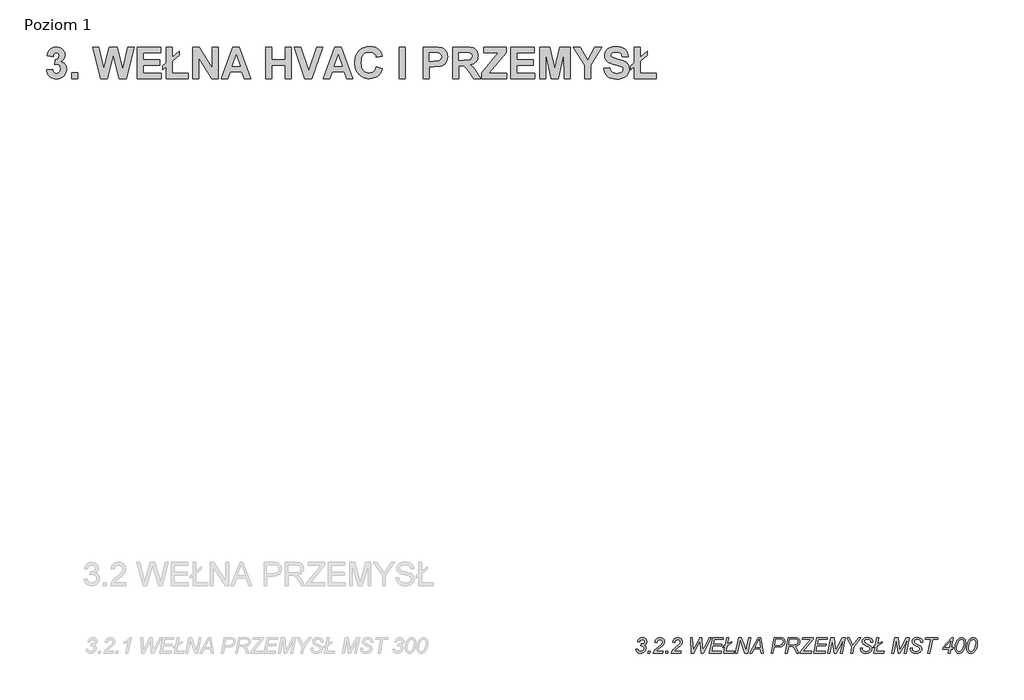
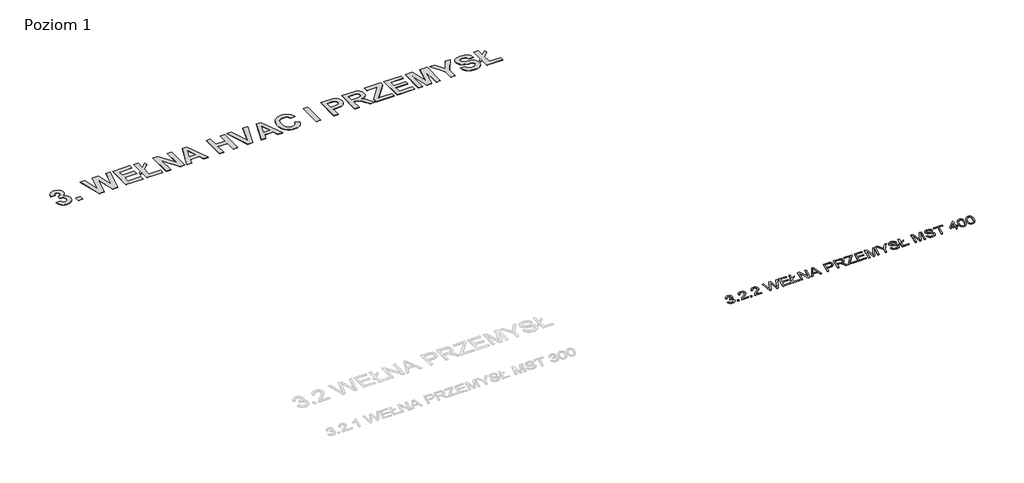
# One storey, part 3 of 8: 2 proxies.
"""IFC4 building model written with IfcOpenShell, lengths in millimetres."""

from ifc_helpers import new_model, si_unit, origin, origin_with_axes, place, context, project, spatial, polyline, outline, extrude, element, save

model = new_model("IFC4")

# Units and contexts
model_context = context("Model", 3, world=origin())
ifc_project = project(units=[si_unit("LENGTHUNIT", "METRE", prefix="MILLI")], contexts=[model_context])

# Site, building, storey
site = spatial("IfcSite", under=ifc_project)
building = spatial("IfcBuilding", under=site)
storey = spatial("IfcBuildingStorey", under=building, Name="Poziom 1", Elevation=0.0)

# Proxies
placement = place(None, origin())
element("IfcBuildingElementProxy", 1, Name="400 mm Arial", ObjectType="400 mm Arial", at=placement, inside=storey, context=model_context, shape_type="SweptSolid", body=[
    extrude(outline(polyline([(-1064.6188022, 3434.5109693), (-1015.6491052, 3434.5109693), (-1006.7542189, 3406.3557846), (-991.1642568, 3387.501973), (-969.2617946, 3376.8496293), (-941.4294083, 3373.298848), (-906.8541242, 3379.2765943), (-891.4674054, 3386.748777), (-877.3479689, 3397.2098329), (-865.5478979, 3409.6017008), (-857.1192757, 3422.8663196), (-852.0621024, 3437.0036894), (-850.376378, 3452.0138102), (-855.2303079, 3476.6301691), (-869.7920977, 3496.536064), (-892.5314443, 3509.6990611), (-921.9180446, 3514.0867268), (-937.3167189, 3514.0867268), (-929.0913401, 3563.9172193), (-915.7968325, 3563.0564238), (-879.559735, 3567.2169352), (-853.2935181, 3579.6984693), (-837.3329357, 3598.2294825), (-832.0127416, 3620.5384314), (-836.5319177, 3641.0540564), (-850.0894461, 3658.0308556), (-870.1985844, 3669.4363954), (-894.3725901, 3673.238242), (-918.6422397, 3669.3527069), (-940.3773249, 3657.6961018), (-957.1867473, 3638.9379342), (-966.6794083, 3613.7477117), (-1015.6491052, 3621.6861587), (-1008.4070657, 3644.3328502), (-998.4451516, 3664.2596672), (-985.7633631, 3681.4666096), (-970.3616999, 3695.9536776), (-952.8319592, 3707.4399169), (-933.7659376, 3715.6443736), (-913.1636353, 3720.5670476), (-891.0250522, 3722.207939), (-868.0675179, 3720.4564593), (-847.3994604, 3715.2020204), (-829.0208796, 3706.4446222), (-812.9317757, 3694.1842647), (-799.8554559, 3679.3714096), (-790.5152274, 3662.9565185), (-784.9110903, 3644.9395914), (-783.0430446, 3625.3206283), (-787.0003126, 3597.3806426), (-798.8721166, 3573.2425033), (-818.8019225, 3552.9062107), (-846.9331961, 3536.3717647), (-826.8957908, 3520.961135), (-812.6926658, 3502.6572761), (-804.2281772, 3481.484099), (-801.406681, 3457.4655147), (-803.9382565, 3431.3905857), (-811.5329831, 3407.1089806), (-824.1908607, 3384.6206994), (-841.9118893, 3363.925742), (-863.1538105, 3346.6022335), (-886.3743657, 3334.2282988), (-911.5735548, 3326.803938), (-938.751378, 3324.3291511), (-964.7904405, 3326.2061634), (-988.1992946, 3331.8372003), (-1008.9779405, 3341.2222619), (-1027.126378, 3354.361348), (-1042.0946545, 3370.6327732), (-1053.3328174, 3389.4148518), (-1060.8408666, 3410.7075838), (-1064.6188022, 3434.5109693)])), origin_with_axes(), (0.0, 0.0, 1.0), 5.0),
    extrude(outline(polyline([(-757.7930446, 3330.4503632), (-746.3157719, 3379.4200602), (-697.3460749, 3379.4200602), (-707.8669083, 3330.4503632), (-757.7930446, 3330.4503632)])), origin_with_axes(), (0.0, 0.0, 1.0), 5.0),
    extrude(outline(polyline([(-611.6491052, 3330.4503632), (-602.5270645, 3362.7062818), (-590.4639727, 3389.2713859), (-574.7066336, 3412.3813528), (-554.5018515, 3434.2718594), (-468.1831961, 3502.8963859), (-415.1008098, 3545.1710071), (-397.430592, 3564.7062818), (-385.3555446, 3583.9068026), (-380.6211696, 3597.392598), (-379.0430446, 3612.0261208), (-383.932841, 3635.6382183), (-398.6022302, 3655.4006473), (-420.3970929, 3668.7788433), (-446.6633098, 3673.238242), (-473.0251706, 3668.7190658), (-495.8721166, 3655.1615374), (-513.9368657, 3631.6092174), (-525.9521355, 3597.1056662), (-574.9218325, 3603.6094541), (-569.6763602, 3629.6963386), (-561.0175948, 3652.8660829), (-548.9455363, 3673.1186871), (-533.4601848, 3690.4541511), (-515.2131145, 3704.3464333), (-494.8558997, 3714.269492), (-472.3885406, 3720.2233272), (-447.8110371, 3722.207939), (-415.1844982, 3718.6810687), (-385.7859424, 3708.1004579), (-361.4565153, 3691.1475696), (-344.0373628, 3668.503867), (-333.5643515, 3642.5963149), (-330.0733477, 3615.8518783), (-331.8427605, 3596.238893), (-337.1509992, 3576.996528), (-345.9980636, 3558.1247832), (-358.3839537, 3539.6236587), (-392.672306, 3508.0611587), (-460.7229689, 3455.8395677), (-515.0009045, 3411.8433556), (-541.8290295, 3379.4200602), (-360.6794083, 3379.4200602), (-370.3394461, 3330.4503632), (-611.6491052, 3330.4503632)])), origin_with_axes(), (0.0, 0.0, 1.0), 5.0),
    extrude(outline(polyline([(-304.8233477, 3330.4503632), (-293.3460749, 3379.4200602), (-244.376378, 3379.4200602), (-254.8972113, 3330.4503632), (-304.8233477, 3330.4503632)])), origin_with_axes(), (0.0, 0.0, 1.0), 5.0),
    extrude(outline(polyline([(-158.6794083, 3330.4503632), (-149.5573675, 3362.7062818), (-137.4942757, 3389.2713859), (-121.7369367, 3412.3813528), (-101.5321545, 3434.2718594), (-15.2134992, 3502.8963859), (37.8688872, 3545.1710071), (55.539105, 3564.7062818), (67.6141523, 3583.9068026), (72.3485273, 3597.392598), (73.9266523, 3612.0261208), (69.0368559, 3635.6382183), (54.3674667, 3655.4006473), (32.572604, 3668.7788433), (6.3063872, 3673.238242), (-20.0554736, 3668.7190658), (-42.9024196, 3655.1615374), (-60.9671687, 3631.6092174), (-72.9824386, 3597.1056662), (-121.9521355, 3603.6094541), (-116.7066632, 3629.6963386), (-108.0478979, 3652.8660829), (-95.9758394, 3673.1186871), (-80.4904878, 3690.4541511), (-62.2434175, 3704.3464333), (-41.8862028, 3714.269492), (-19.4188436, 3720.2233272), (5.1586599, 3722.207939), (37.7851987, 3718.6810687), (67.1837546, 3708.1004579), (91.5131817, 3691.1475696), (108.9323342, 3668.503867), (119.4053455, 3642.5963149), (122.8963493, 3615.8518783), (121.1269364, 3596.238893), (115.8186978, 3576.996528), (106.9716334, 3558.1247832), (94.5857432, 3539.6236587), (60.297391, 3508.0611587), (-7.7532719, 3455.8395677), (-62.0312075, 3411.8433556), (-88.8593325, 3379.4200602), (92.2902887, 3379.4200602), (82.6302508, 3330.4503632), (-158.6794083, 3330.4503632)])), origin_with_axes(), (0.0, 0.0, 1.0), 5.0),
    extrude(outline(polyline([(355.5024099, 3330.4503632), (331.0175614, 3722.207939), (379.9872584, 3722.207939), (391.1775993, 3527.0943026), (395.4815766, 3452.205098), (396.8205917, 3428.1984693), (401.4115008, 3397.7836965), (446.842372, 3497.3490374), (561.6150993, 3722.207939), (618.7145311, 3722.207939), (636.0260842, 3492.5668405), (646.2599857, 3397.7836965), (661.7543039, 3435.3717647), (692.3603645, 3496.392598), (805.9853645, 3722.207939), (860.5024099, 3722.207939), (656.5895311, 3330.4503632), (600.3508948, 3330.4503632), (581.7959705, 3566.7865374), (572.8054402, 3642.6321814), (546.8859326, 3585.6283935), (416.4275993, 3330.4503632), (355.5024099, 3330.4503632)])), origin_with_axes(), (0.0, 0.0, 1.0), 5.0),
    extrude(outline(polyline([(814.593319, 3330.4503632), (894.1690766, 3722.207939), (1169.623622, 3722.207939), (1163.406766, 3679.3594541), (935.2003266, 3679.3594541), (910.3329023, 3556.9352117), (1132.8963493, 3556.9352117), (1120.6539251, 3514.0867268), (901.6293039, 3514.0867268), (873.031766, 3373.298848), (1118.5497584, 3373.298848), (1109.3679402, 3330.4503632), (814.593319, 3330.4503632)])), origin_with_axes(), (0.0, 0.0, 1.0), 5.0),
    extrude(outline(polyline([(1208.7419932, 3493.0450602), (1157.3811978, 3465.1170299), (1169.623622, 3507.9655147), (1217.063016, 3533.7893783), (1255.3205917, 3722.207939), (1305.0554402, 3722.207939), (1272.9190766, 3564.0128632), (1383.8660463, 3624.268545), (1371.623622, 3581.4200602), (1264.6936978, 3523.364189), (1234.1832811, 3373.298848), (1438.9569554, 3373.298848), (1426.7145311, 3330.4503632), (1175.7448342, 3330.4503632), (1208.7419932, 3493.0450602)])), origin_with_axes(), (0.0, 0.0, 1.0), 5.0),
    extrude(outline(polyline([(1475.6842281, 3330.4503632), (1555.2599857, 3722.207939), (1622.593319, 3722.207939), (1681.8925614, 3570.612295), (1724.9323342, 3453.831045), (1746.0696448, 3379.4200602), (1767.6851751, 3490.5583177), (1812.7334705, 3722.207939), (1862.3726751, 3722.207939), (1786.2400993, 3330.4503632), (1713.9332811, 3330.4503632), (1632.9228645, 3555.5005526), (1593.4219175, 3665.0128632), (1573.8149099, 3568.3168405), (1525.4190766, 3330.4503632), (1475.6842281, 3330.4503632)])), origin_with_axes(), (0.0, 0.0, 1.0), 5.0),
    extrude(outline(polyline([(1834.6359326, 3330.4503632), (2053.8518417, 3722.207939), (2115.8291145, 3722.207939), (2177.5194554, 3330.4503632), (2128.0715387, 3330.4503632), (2112.3859326, 3440.6321814), (1949.313016, 3440.6321814), (1889.5355539, 3330.4503632), (1834.6359326, 3330.4503632)]), holes=[polyline([(1974.6586599, 3483.4806662), (2106.3603645, 3483.4806662), (2092.5876372, 3581.4200602), (2078.623622, 3679.3594541), (2035.4882054, 3599.7836965), (1974.6586599, 3483.4806662)])]), origin_with_axes(), (0.0, 0.0, 1.0), 5.0),
    extrude(outline(polyline([(2381.623622, 3330.4503632), (2460.8168039, 3722.207939), (2624.0810084, 3722.207939), (2661.1669459, 3719.7690185), (2687.6842281, 3712.4522571), (2707.0760368, 3699.2294825), (2722.7855539, 3679.0725223), (2733.1868323, 3654.0138102), (2736.6539251, 3626.0857799), (2734.1791381, 3601.5889759), (2726.7547773, 3576.6856852), (2715.5524809, 3553.7789617), (2701.7438872, 3535.2718594), (2686.5365008, 3520.9730905), (2671.1378266, 3510.691367), (2637.9493796, 3498.4011208), (2600.0504686, 3491.801689), (2561.7211599, 3489.6018783), (2463.5904781, 3489.6018783), (2431.4541145, 3330.4503632), (2381.623622, 3330.4503632)]), holes=[polyline([(2472.2940766, 3532.4503632), (2560.2865008, 3532.4503632), (2604.6533332, 3535.1762155), (2635.4148152, 3543.3537723), (2656.9227461, 3557.1145441), (2673.5289251, 3576.5900412), (2684.1454023, 3599.6043641), (2687.6842281, 3623.9816132), (2685.7713493, 3641.5322761), (2680.0327129, 3655.5441132), (2670.8030728, 3666.172546), (2658.4171826, 3673.5729958), (2638.0450235, 3677.9128395), (2604.8565766, 3679.3594541), (2502.0393417, 3679.3594541), (2472.2940766, 3532.4503632)])]), origin_with_axes(), (0.0, 0.0, 1.0), 5.0),
    extrude(outline(polyline([(2742.7751372, 3330.4503632), (2822.3508948, 3722.207939), (2987.8149099, 3722.207939), (3030.8666381, 3720.1276833), (3062.0824289, 3713.8869162), (3084.6543985, 3701.9075128), (3101.7746637, 3682.611348), (3112.5704734, 3656.6679295), (3116.1690766, 3624.7467647), (3114.2322868, 3601.349866), (3108.4219175, 3580.033223), (3098.7379686, 3560.7968357), (3085.1804402, 3543.6407041), (3067.3010013, 3528.9414262), (3044.6513209, 3517.0755999), (3017.231399, 3508.0432254), (2985.0412357, 3501.8443026), (3003.7635368, 3487.5216227), (3017.2732432, 3473.4380526), (3036.4259421, 3438.2171719), (3051.4181296, 3401.800742), (3085.467372, 3330.4503632), (3032.0024099, 3330.4503632), (2997.7618796, 3402.1833177), (2982.6262262, 3438.5758367), (2965.529872, 3469.707939), (2951.9364771, 3486.0989191), (2937.7453076, 3495.6752685), (2918.7480302, 3500.3020441), (2890.7363114, 3501.8443026), (2827.3243796, 3501.8443026), (2792.5099857, 3330.4503632), (2742.7751372, 3330.4503632)]), holes=[polyline([(2836.0279781, 3544.6927874), (2911.1084705, 3544.6927874), (2978.9200235, 3544.6927874), (3005.879659, 3549.6662723), (3027.4593228, 3558.4655147), (3044.2328787, 3571.0307373), (3056.7741902, 3587.3021624), (3064.5930823, 3606.108152), (3067.1993796, 3626.2770677), (3065.2147679, 3642.7397808), (3059.2609326, 3656.9309503), (3050.0791145, 3667.8941369), (3038.4105539, 3674.6729011), (3020.9794459, 3678.1878158), (2994.5099857, 3679.3594541), (2863.3821448, 3679.3594541), (2836.0279781, 3544.6927874)])]), origin_with_axes(), (0.0, 0.0, 1.0), 5.0),
    extrude(outline(polyline([(3122.2902887, 3330.4503632), (3128.4115008, 3367.1776359), (3325.2467281, 3601.5052874), (3366.1823342, 3649.9967647), (3390.7628266, 3679.3594541), (3355.6615008, 3679.3594541), (3342.6539251, 3679.3594541), (3326.968319, 3679.3594541), (3311.5696448, 3679.3594541), (3178.3376372, 3679.3594541), (3187.6150993, 3722.207939), (3458.9569554, 3722.207939), (3453.8878266, 3681.176689), (3243.375516, 3430.6852117), (3195.1709705, 3373.298848), (3210.0914251, 3373.298848), (3419.7429402, 3373.298848), (3410.4654781, 3330.4503632), (3122.2902887, 3330.4503632)])), origin_with_axes(), (0.0, 0.0, 1.0), 5.0),
    extrude(outline(polyline([(3465.0781675, 3330.4503632), (3544.6539251, 3722.207939), (3820.1084705, 3722.207939), (3813.8916145, 3679.3594541), (3585.6851751, 3679.3594541), (3560.8177508, 3556.9352117), (3783.3811978, 3556.9352117), (3771.1387735, 3514.0867268), (3552.1141523, 3514.0867268), (3523.5166145, 3373.298848), (3769.0346069, 3373.298848), (3759.8527887, 3330.4503632), (3465.0781675, 3330.4503632)])), origin_with_axes(), (0.0, 0.0, 1.0), 5.0),
    extrude(outline(polyline([(3831.6813872, 3330.4503632), (3908.1008948, 3722.207939), (3991.5980539, 3722.207939), (4021.2476751, 3468.9427874), (4028.0383948, 3404.7657041), (4067.9219175, 3482.8111587), (4200.3887735, 3722.207939), (4277.8603645, 3722.207939), (4194.7457811, 3330.4503632), (4144.5327129, 3330.4503632), (4190.5374478, 3518.6776359), (4205.7209232, 3590.6975223), (4231.3774099, 3673.238242), (4204.0710652, 3630.7484219), (4180.686122, 3587.2543405), (4038.4635842, 3330.4503632), (3988.250516, 3330.4503632), (3958.8878266, 3581.611348), (3948.1757054, 3673.238242), (3929.812069, 3578.8376738), (3881.3205917, 3330.4503632), (3831.6813872, 3330.4503632)])), origin_with_axes(), (0.0, 0.0, 1.0), 5.0),
    extrude(outline(polyline([(4407.7448342, 3330.4503632), (4438.1596069, 3480.4200602), (4319.8480539, 3722.207939), (4373.4086599, 3722.207939), (4430.7950235, 3609.1568026), (4467.5222963, 3529.9636208), (4490.6442186, 3565.973564), (4523.4740008, 3604.7571814), (4611.3707811, 3722.207939), (4670.5743796, 3722.207939), (4487.0336599, 3476.4986587), (4457.4796826, 3330.4503632), (4407.7448342, 3330.4503632)])), origin_with_axes(), (0.0, 0.0, 1.0), 5.0),
    extrude(outline(polyline([(4658.7145311, 3458.9958177), (4707.6842281, 3465.1170299), (4707.1103645, 3450.9617268), (4709.6927508, 3428.5093121), (4717.4399099, 3408.017598), (4731.1409042, 3390.7180005), (4751.5847963, 3377.8419352), (4777.6238588, 3369.8437107), (4808.1103645, 3367.1776359), (4849.15357, 3372.3424087), (4865.523628, 3378.7983746), (4879.1259895, 3387.8367268), (4897.4537593, 3409.9543878), (4903.563016, 3434.989189), (4900.358944, 3452.6594068), (4890.7467281, 3468.7514996), (4866.4531675, 3486.3499844), (4819.5876372, 3509.3045299), (4757.9929402, 3539.9105905), (4735.5644364, 3557.987295), (4719.9266523, 3577.5943026), (4710.7448342, 3599.4250318), (4707.6842281, 3624.1729011), (4711.6654071, 3652.770439), (4723.608944, 3678.4986587), (4743.2159516, 3699.9109456), (4770.1875425, 3715.5606852), (4802.8140813, 3725.1370346), (4839.3859326, 3728.3291511), (4881.7801088, 3724.2284172), (4916.9531675, 3711.9262155), (4944.1877792, 3692.7854721), (4962.7666145, 3668.1691132), (4973.4548247, 3641.4366321), (4977.0175614, 3615.9475223), (4977.0175614, 3607.7221435), (4928.0478645, 3603.6094541), (4925.2741902, 3630.676689), (4918.7106249, 3646.4459835), (4909.3494743, 3659.5133367), (4896.5810084, 3670.081992), (4879.795497, 3678.3551927), (4859.8896021, 3683.6992979), (4837.7599857, 3685.4806662), (4801.3674667, 3680.6506473), (4786.5785226, 3674.6131236), (4774.061122, 3666.1605905), (4761.0057243, 3649.0164143), (4756.6539251, 3627.0422193), (4758.4592044, 3613.3651359), (4763.8750425, 3601.2183556), (4774.0013446, 3589.9323708), (4789.938016, 3578.8376738), (4853.5412357, 3548.1359693), (4909.779872, 3518.8689238), (4927.9761315, 3503.2311397), (4941.438016, 3484.6283935), (4949.7590387, 3463.1563291), (4952.5327129, 3438.9105905), (4947.8222489, 3408.4599513), (4933.6908569, 3380.4243215), (4911.2503976, 3356.6448471), (4881.6127319, 3338.9626738), (4845.973409, 3327.9875318), (4805.5279781, 3324.3291511), (4774.6439523, 3326.1583414), (4746.7428218, 3331.6459124), (4721.8245868, 3340.7918641), (4699.889247, 3353.5961965), (4681.9829083, 3371.1588149), (4669.151676, 3394.5796246), (4661.3955503, 3423.8586255), (4658.7145311, 3458.9958177)])), origin_with_axes(), (0.0, 0.0, 1.0), 5.0),
    extrude(outline(polyline([(5034.499569, 3493.0450602), (4983.1387735, 3465.1170299), (4995.3811978, 3507.9655147), (5042.8205917, 3533.7893783), (5081.0781675, 3722.207939), (5130.813016, 3722.207939), (5098.6766523, 3564.0128632), (5209.623622, 3624.268545), (5197.3811978, 3581.4200602), (5090.4512735, 3523.364189), (5059.9408569, 3373.298848), (5264.7145311, 3373.298848), (5252.4721069, 3330.4503632), (5001.5024099, 3330.4503632), (5034.499569, 3493.0450602)])), origin_with_axes(), (0.0, 0.0, 1.0), 5.0),
    extrude(outline(polyline([(5459.9238114, 3330.4503632), (5536.343319, 3722.207939), (5619.8404781, 3722.207939), (5649.4900993, 3468.9427874), (5656.280819, 3404.7657041), (5696.1643417, 3482.8111587), (5828.6311978, 3722.207939), (5906.1027887, 3722.207939), (5822.9882054, 3330.4503632), (5772.7751372, 3330.4503632), (5818.779872, 3518.6776359), (5833.9633474, 3590.6975223), (5859.6198342, 3673.238242), (5832.3134895, 3630.7484219), (5808.9285463, 3587.2543405), (5666.7060084, 3330.4503632), (5616.4929402, 3330.4503632), (5587.1302508, 3581.611348), (5576.4181296, 3673.238242), (5558.0544932, 3578.8376738), (5509.563016, 3330.4503632), (5459.9238114, 3330.4503632)])), origin_with_axes(), (0.0, 0.0, 1.0), 5.0),
    extrude(outline(polyline([(5925.8054402, 3458.9958177), (5974.7751372, 3465.1170299), (5974.2012735, 3450.9617268), (5976.7836599, 3428.5093121), (5984.530819, 3408.017598), (5998.2318133, 3390.7180005), (6018.6757054, 3377.8419352), (6044.7147679, 3369.8437107), (6075.2012735, 3367.1776359), (6116.244479, 3372.3424087), (6132.614537, 3378.7983746), (6146.2168985, 3387.8367268), (6164.5446684, 3409.9543878), (6170.6539251, 3434.989189), (6167.4498531, 3452.6594068), (6157.8376372, 3468.7514996), (6133.5440766, 3486.3499844), (6086.6785463, 3509.3045299), (6025.0838493, 3539.9105905), (6002.6553455, 3557.987295), (5987.0175614, 3577.5943026), (5977.8357432, 3599.4250318), (5974.7751372, 3624.1729011), (5978.7563162, 3652.770439), (5990.6998531, 3678.4986587), (6010.3068607, 3699.9109456), (6037.2784516, 3715.5606852), (6069.9049904, 3725.1370346), (6106.4768417, 3728.3291511), (6148.8710179, 3724.2284172), (6184.0440766, 3711.9262155), (6211.2786883, 3692.7854721), (6229.8575235, 3668.1691132), (6240.5457338, 3641.4366321), (6244.1084705, 3615.9475223), (6244.1084705, 3607.7221435), (6195.1387735, 3603.6094541), (6192.3650993, 3630.676689), (6185.801534, 3646.4459835), (6176.4403834, 3659.5133367), (6163.6719175, 3670.081992), (6146.8864061, 3678.3551927), (6126.9805112, 3683.6992979), (6104.8508948, 3685.4806662), (6068.4583758, 3680.6506473), (6053.6694317, 3674.6131236), (6041.1520311, 3666.1605905), (6028.0966334, 3649.0164143), (6023.7448342, 3627.0422193), (6025.5501135, 3613.3651359), (6030.9659516, 3601.2183556), (6041.0922537, 3589.9323708), (6057.0289251, 3578.8376738), (6120.6321448, 3548.1359693), (6176.8707811, 3518.8689238), (6195.0670406, 3503.2311397), (6208.5289251, 3484.6283935), (6216.8499478, 3463.1563291), (6219.623622, 3438.9105905), (6214.913158, 3408.4599513), (6200.781766, 3380.4243215), (6178.3413067, 3356.6448471), (6148.703641, 3338.9626738), (6113.0643181, 3327.9875318), (6072.6188872, 3324.3291511), (6041.7348614, 3326.1583414), (6013.8337309, 3331.6459124), (5988.9154959, 3340.7918641), (5966.9801561, 3353.5961965), (5949.0738173, 3371.1588149), (5936.2425851, 3394.5796246), (5928.4864594, 3423.8586255), (5925.8054402, 3458.9958177)])), origin_with_axes(), (0.0, 0.0, 1.0), 5.0),
    extrude(outline(polyline([(6372.6539251, 3330.4503632), (6446.7779781, 3679.3594541), (6311.4418039, 3679.3594541), (6320.719266, 3722.207939), (6632.8054402, 3722.207939), (6623.5279781, 3679.3594541), (6496.6084705, 3679.3594541), (6422.4844175, 3330.4503632), (6372.6539251, 3330.4503632)])), origin_with_axes(), (0.0, 0.0, 1.0), 5.0),
    extrude(outline(polyline([(6892.9569554, 3330.4503632), (6912.7552508, 3428.3897571), (6752.1690766, 3428.3897571), (6764.4115008, 3482.1416511), (6984.7751372, 3716.0867268), (7020.6416145, 3716.0867268), (6972.3414251, 3477.3594541), (7021.5024099, 3477.3594541), (7009.2599857, 3428.3897571), (6962.4900993, 3428.3897571), (6942.6918039, 3330.4503632), (6892.9569554, 3330.4503632)]), holes=[polyline([(6922.6065766, 3477.3594541), (6953.8821448, 3632.206992), (6808.0251372, 3477.3594541), (6922.6065766, 3477.3594541)])]), origin_with_axes(), (0.0, 0.0, 1.0), 5.0),
    extrude(outline(polyline([(7064.3508948, 3458.8045299), (7068.1288304, 3508.6469778), (7079.4626372, 3559.2784882), (7095.4112641, 3605.1875791), (7113.0336599, 3640.8627685), (7131.8396495, 3668.0973802), (7151.3390576, 3688.6847382), (7171.0177982, 3703.6649702), (7190.3617849, 3714.0782041), (7210.6024336, 3720.1755052), (7232.9711599, 3722.207939), (7254.8437333, 3720.1306721), (7274.8392944, 3713.8988717), (7292.9578432, 3703.5125377), (7309.1993796, 3688.97167), (7322.5895311, 3670.5094008), (7332.1539251, 3648.3588623), (7337.8925614, 3622.5200542), (7339.8054402, 3592.9929768), (7334.4972016, 3528.7680715), (7318.5724857, 3465.2126738), (7304.8595359, 3430.0635261), (7288.6837546, 3399.6009314), (7270.0451419, 3373.8248897), (7248.9436978, 3352.7354011), (7231.225658, 3340.3076667), (7212.312069, 3331.4307136), (7192.2029307, 3326.1045417), (7170.8982432, 3324.3291511), (7149.3454793, 3326.4811397), (7129.544195, 3332.9371056), (7111.4943903, 3343.6970488), (7095.1960652, 3358.7609693), (7081.7013031, 3377.9256236), (7072.0621874, 3400.9877685), (7066.2787179, 3427.9474039), (7064.3508948, 3458.8045299)]), holes=[polyline([(7113.3205917, 3451.7268783), (7116.3094648, 3421.9098802), (7125.2760842, 3399.4096435), (7134.3921471, 3387.9861705), (7145.4808664, 3379.8265469), (7158.5422418, 3374.9307728), (7173.5762735, 3373.298848), (7200.2609326, 3379.2048613), (7224.4588493, 3396.9229011), (7239.9770785, 3415.4569032), (7253.4389629, 3437.8704626), (7264.8445027, 3464.1635793), (7274.1936978, 3494.3362533), (7286.6752319, 3552.6671009), (7290.8357432, 3599.2098329), (7286.8067423, 3633.031921), (7274.7197395, 3655.878867), (7256.0333048, 3668.8983982), (7232.2060084, 3673.238242), (7213.6271732, 3670.9427874), (7196.3395311, 3664.0564238), (7180.0561504, 3651.5748897), (7164.4900993, 3632.4939238), (7144.2853171, 3593.1842647), (7126.9020311, 3538.1889996), (7116.7159516, 3489.7453443), (7113.3205917, 3451.7268783)])]), origin_with_axes(), (0.0, 0.0, 1.0), 5.0),
    extrude(outline(polyline([(7364.2902887, 3458.8045299), (7368.0682243, 3508.6469778), (7379.4020311, 3559.2784882), (7395.350658, 3605.1875791), (7412.9730539, 3640.8627685), (7431.7790434, 3668.0973802), (7451.2784516, 3688.6847382), (7470.9571921, 3703.6649702), (7490.3011789, 3714.0782041), (7510.5418275, 3720.1755052), (7532.9105539, 3722.207939), (7554.7831272, 3720.1306721), (7574.7786883, 3713.8988717), (7592.8972371, 3703.5125377), (7609.1387735, 3688.97167), (7622.5289251, 3670.5094008), (7632.093319, 3648.3588623), (7637.8319554, 3622.5200542), (7639.7448342, 3592.9929768), (7634.4365955, 3528.7680715), (7618.5118796, 3465.2126738), (7604.7989298, 3430.0635261), (7588.6231485, 3399.6009314), (7569.9845359, 3373.8248897), (7548.8830917, 3352.7354011), (7531.165052, 3340.3076667), (7512.2514629, 3331.4307136), (7492.1423247, 3326.1045417), (7470.8376372, 3324.3291511), (7449.2848732, 3326.4811397), (7429.4835889, 3332.9371056), (7411.4337842, 3343.6970488), (7395.1354592, 3358.7609693), (7381.6406971, 3377.9256236), (7372.0015813, 3400.9877685), (7366.2181119, 3427.9474039), (7364.2902887, 3458.8045299)]), holes=[polyline([(7413.2599857, 3451.7268783), (7416.2488588, 3421.9098802), (7425.2154781, 3399.4096435), (7434.3315411, 3387.9861705), (7445.4202603, 3379.8265469), (7458.4816358, 3374.9307728), (7473.5156675, 3373.298848), (7500.2003266, 3379.2048613), (7524.3982432, 3396.9229011), (7539.9164724, 3415.4569032), (7553.3783569, 3437.8704626), (7564.7838967, 3464.1635793), (7574.1330917, 3494.3362533), (7586.6146258, 3552.6671009), (7590.7751372, 3599.2098329), (7586.7461362, 3633.031921), (7574.6591334, 3655.878867), (7555.9726987, 3668.8983982), (7532.1454023, 3673.238242), (7513.5665671, 3670.9427874), (7496.2789251, 3664.0564238), (7479.9955444, 3651.5748897), (7464.4294932, 3632.4939238), (7444.224711, 3593.1842647), (7426.8414251, 3538.1889996), (7416.6553455, 3489.7453443), (7413.2599857, 3451.7268783)])]), origin_with_axes(), (0.0, 0.0, 1.0), 5.0),
])
element("IfcBuildingElementProxy", 2, Name="800", ObjectType="800", at=placement, inside=storey, context=model_context, shape_type="SweptSolid", body=[
    extrude(outline(polyline([(-16071.0553841, 18188.3091898), (-15918.0553841, 18206.0396585), (-15913.5107064, 18179.7925882), (-15906.2516732, 18156.8326273), (-15896.2782845, 18137.1597757), (-15883.5905404, 18120.7740335), (-15868.8109993, 18107.8746195), (-15852.56222, 18098.6607523), (-15834.8442025, 18093.132432), (-15815.6569466, 18091.2896585), (-15795.0004525, 18093.4001322), (-15776.06222, 18099.7315531), (-15758.8422493, 18110.2839212), (-15743.3405404, 18125.0572367), (-15730.5282845, 18143.4040384), (-15721.3766732, 18164.6768656), (-15715.8857064, 18188.8757181), (-15714.0553841, 18216.000596), (-15715.7300667, 18241.6873636), (-15720.7541146, 18264.5601664), (-15729.1275277, 18284.6190042), (-15740.850306, 18301.8638773), (-15754.9886116, 18315.7220316), (-15770.6086068, 18325.6207132), (-15787.7102913, 18331.5599222), (-15806.2936654, 18333.5396585), (-15834.234095, 18330.7007914), (-15867.0553841, 18322.1841898), (-15853.7077279, 18448.2896585), (-15830.4676156, 18449.2608499), (-15810.1535286, 18453.7681742), (-15792.7654671, 18461.8116312), (-15778.303431, 18473.391221), (-15766.9292855, 18487.8345804), (-15758.8048958, 18504.469346), (-15753.930262, 18523.2955179), (-15752.3053841, 18544.313096), (-15757.1613411, 18578.1553812), (-15771.7292122, 18604.3775492), (-15782.2442269, 18614.182847), (-15794.3654427, 18621.1866312), (-15823.4264779, 18626.7896585), (-15838.7849984, 18625.1647806), (-15852.9855599, 18620.2901468), (-15866.0281624, 18612.1657572), (-15877.912806, 18600.7916117), (-15888.1040902, 18586.292222), (-15896.0666146, 18568.7920999), (-15905.3053841, 18524.7896585), (-16058.3053841, 18547.6998148), (-16040.7990365, 18616.1563578), (-16029.3750863, 18644.6508646), (-16016.1706185, 18669.3228617), (-16000.6813607, 18690.8696146), (-15982.4030404, 18709.988389), (-15961.3356575, 18726.6791849), (-15937.4792122, 18740.9420023), (-15911.4749398, 18752.3597269), (-15883.9640755, 18760.5152445), (-15854.9466195, 18765.408555), (-15824.4225716, 18767.0396585), (-15773.4972786, 18762.5198832), (-15727.9010872, 18748.960557), (-15687.6339974, 18726.36168), (-15652.6960091, 18694.7232523), (-15629.3376107, 18664.1680765), (-15612.6530404, 18631.6705179), (-15602.6422982, 18597.2305765), (-15599.3053841, 18560.8482523), (-15601.0952401, 18535.0712137), (-15606.4648079, 18510.6326761), (-15615.4140877, 18487.5326395), (-15627.9430794, 18465.7711039), (-15644.051783, 18445.3480692), (-15663.7401986, 18426.2635355), (-15713.8561654, 18392.109971), (-15680.8356575, 18382.4789896), (-15651.3014779, 18368.3282328), (-15625.2536263, 18349.6577005), (-15602.6921029, 18326.4673929), (-15584.4760384, 18299.6786966), (-15571.4645638, 18270.2129984), (-15563.657679, 18238.0702982), (-15561.0553841, 18203.250596), (-15565.6685433, 18152.8793802), (-15579.5080208, 18106.3555765), (-15602.5738167, 18063.6791849), (-15634.865931, 18024.8502054), (-15674.0310921, 17992.5580912), (-15717.7160286, 17969.4922953), (-15765.9207406, 17955.6528177), (-15818.6452279, 17951.0396585), (-15868.5183968, 17955.1423197), (-15913.9464974, 17967.4503031), (-15954.9295296, 17987.9636087), (-15991.4674935, 18016.6822367), (-16022.1783089, 18052.024888), (-16045.6798958, 18092.410264), (-16061.9722542, 18137.8383646), (-16071.0553841, 18188.3091898)])), origin_with_axes(), (0.0, 0.0, 1.0), 5.0),
    extrude(outline(polyline([(-15433.5553841, 17963.7896585), (-15433.5553841, 18116.7896585), (-15280.5553841, 18116.7896585), (-15280.5553841, 17963.7896585), (-15433.5553841, 17963.7896585)])), origin_with_axes(), (0.0, 0.0, 1.0), 5.0),
    extrude(outline(polyline([(-14695.8483529, 17963.7896585), (-14898.0553841, 18767.0396585), (-14741.0710091, 18767.0396585), (-14611.1803841, 18215.203721), (-14471.5280404, 18767.0396585), (-14265.7350716, 18767.0396585), (-14126.6803841, 18206.0396585), (-13996.7897591, 18767.0396585), (-13839.8053841, 18767.0396585), (-14039.0241341, 17963.7896585), (-14220.1139779, 17963.7896585), (-14368.9303841, 18564.234971), (-14520.7350716, 17963.7896585), (-14695.8483529, 17963.7896585)])), origin_with_axes(), (0.0, 0.0, 1.0), 5.0),
    extrude(outline(polyline([(-13763.3053841, 17963.7896585), (-13763.3053841, 18767.0396585), (-13164.0553841, 18767.0396585), (-13164.0553841, 18626.7896585), (-13610.3053841, 18626.7896585), (-13610.3053841, 18448.2896585), (-13189.5553841, 18448.2896585), (-13189.5553841, 18308.0396585), (-13610.3053841, 18308.0396585), (-13610.3053841, 18104.0396585), (-13151.3053841, 18104.0396585), (-13151.3053841, 17963.7896585), (-13763.3053841, 17963.7896585)])), origin_with_axes(), (0.0, 0.0, 1.0), 5.0),
    extrude(outline(polyline([(-13023.8053841, 18367.406846), (-13023.8053841, 18767.0396585), (-12870.8053841, 18767.0396585), (-12870.8053841, 18501.8795023), (-12692.3053841, 18658.6646585), (-12692.3053841, 18561.047471), (-12870.8053841, 18404.2623148), (-12870.8053841, 18104.0396585), (-12462.8053841, 18104.0396585), (-12462.8053841, 17963.7896585), (-13023.8053841, 17963.7896585), (-13023.8053841, 18269.7896585), (-13113.0553841, 18191.297471), (-13113.0553841, 18288.9146585), (-13023.8053841, 18367.406846)])), origin_with_axes(), (0.0, 0.0, 1.0), 5.0),
    extrude(outline(polyline([(-12348.0553841, 17963.7896585), (-12348.0553841, 18767.0396585), (-12187.6842904, 18767.0396585), (-11850.8053841, 18226.359971), (-11850.8053841, 18767.0396585), (-11697.8053841, 18767.0396585), (-11697.8053841, 17963.7896585), (-11863.1569466, 17963.7896585), (-12195.0553841, 18496.500596), (-12195.0553841, 17963.7896585), (-12348.0553841, 17963.7896585)])), origin_with_axes(), (0.0, 0.0, 1.0), 5.0),
    extrude(outline(polyline([(-10869.0553841, 17963.7896585), (-11029.8249154, 17963.7896585), (-11092.7780404, 18142.2896585), (-11396.1881966, 18142.2896585), (-11458.3444466, 17963.7896585), (-11621.3053841, 17963.7896585), (-11328.0553841, 18767.0396585), (-11165.0944466, 18767.0396585), (-10869.0553841, 17963.7896585)]), holes=[polyline([(-11141.7858529, 18282.5396585), (-11245.1803841, 18575.7896585), (-11347.1803841, 18282.5396585), (-11141.7858529, 18282.5396585)])]), origin_with_axes(), (0.0, 0.0, 1.0), 5.0),
    extrude(outline(polyline([(-10486.5553841, 17963.7896585), (-10486.5553841, 18767.0396585), (-10333.5553841, 18767.0396585), (-10333.5553841, 18448.2896585), (-9989.3053841, 18448.2896585), (-9989.3053841, 18767.0396585), (-9836.3053841, 18767.0396585), (-9836.3053841, 17963.7896585), (-9989.3053841, 17963.7896585), (-9989.3053841, 18308.0396585), (-10333.5553841, 18308.0396585), (-10333.5553841, 17963.7896585), (-10486.5553841, 17963.7896585)])), origin_with_axes(), (0.0, 0.0, 1.0), 5.0),
    extrude(outline(polyline([(-9489.0671029, 17963.7896585), (-9759.8053841, 18767.0396585), (-9598.4381966, 18767.0396585), (-9396.4303841, 18167.7896585), (-9193.8249154, 18767.0396585), (-9033.0553841, 18767.0396585), (-9318.1374154, 17963.7896585), (-9489.0671029, 17963.7896585)])), origin_with_axes(), (0.0, 0.0, 1.0), 5.0),
    extrude(outline(polyline([(-8268.0553841, 17963.7896585), (-8428.8249154, 17963.7896585), (-8491.7780404, 18142.2896585), (-8795.1881966, 18142.2896585), (-8857.3444466, 17963.7896585), (-9020.3053841, 17963.7896585), (-8727.0553841, 18767.0396585), (-8564.0944466, 18767.0396585), (-8268.0553841, 17963.7896585)]), holes=[polyline([(-8540.7858529, 18282.5396585), (-8644.1803841, 18575.7896585), (-8746.1803841, 18282.5396585), (-8540.7858529, 18282.5396585)])]), origin_with_axes(), (0.0, 0.0, 1.0), 5.0),
    extrude(outline(polyline([(-7668.8053841, 18269.7896585), (-7515.8053841, 18218.7896585), (-7536.9350228, 18158.29564), (-7564.0661263, 18106.1065531), (-7597.1986947, 18062.2223978), (-7636.3327279, 18026.6431742), (-7681.3063607, 17999.1447611), (-7731.9577279, 17979.5030374), (-7788.2868294, 17967.7180033), (-7850.2936654, 17963.7896585), (-7889.4930672, 17965.467454), (-7926.9057259, 17970.5008402), (-7962.5316414, 17978.8898172), (-7996.3708138, 17990.6343851), (-8028.423243, 18005.7345438), (-8058.688929, 18024.1902933), (-8087.1678719, 18046.0016336), (-8113.8600716, 18071.1685648), (-8138.046473, 18099.2459574), (-8159.0080208, 18129.788682), (-8176.7447152, 18162.7967386), (-8191.256556, 18198.2701273), (-8202.5435433, 18236.208848), (-8210.6056771, 18276.6129007), (-8215.4429574, 18319.4822855), (-8217.0553841, 18364.8170023), (-8215.4289498, 18412.6979837), (-8210.5496468, 18457.8272562), (-8202.4174752, 18500.2048197), (-8191.0324349, 18539.8306742), (-8176.394526, 18576.7048197), (-8158.5037484, 18610.8272562), (-8137.3601021, 18642.1979837), (-8112.9635872, 18670.8170023), (-8085.9149727, 18696.3574686), (-8056.8150277, 18718.4925394), (-8025.663752, 18737.2222147), (-7992.4611458, 18752.5464945), (-7957.2072091, 18764.4653788), (-7919.9019417, 18772.9788675), (-7880.5453438, 18778.0869608), (-7839.1374154, 18779.7896585), (-7768.5143685, 18774.17418), (-7704.8639779, 18757.3277445), (-7675.6535286, 18744.6929178), (-7648.1862435, 18729.2503519), (-7622.4621224, 18711.0000467), (-7598.4811654, 18689.9420023), (-7572.6200814, 18660.5447855), (-7550.2204232, 18625.3453226), (-7531.2821907, 18584.3436136), (-7515.8053841, 18537.5396585), (-7668.8053841, 18512.0396585), (-7678.4488167, 18540.0610208), (-7692.2384896, 18564.957139), (-7710.1744027, 18586.728013), (-7732.256556, 18605.3736429), (-7757.7129769, 18620.3212748), (-7785.7716927, 18630.9981546), (-7816.4327034, 18637.4042826), (-7849.6960091, 18639.5396585), (-7895.1614632, 18635.6611185), (-7936.1320443, 18624.0254984), (-7972.6077523, 18604.6327982), (-8004.5885872, 18577.4830179), (-8030.6053109, 18541.6547708), (-8049.1886849, 18496.2266703), (-8060.3387093, 18441.1987162), (-8064.0553841, 18376.5709085), (-8060.4507699, 18308.1641703), (-8049.6369271, 18250.3658304), (-8031.6138558, 18203.175889), (-8006.381556, 18166.594346), (-7975.3719124, 18139.2266703), (-7940.0168099, 18119.6783304), (-7900.3162484, 18107.9493265), (-7856.2702279, 18104.0396585), (-7823.4800667, 18106.5361185), (-7793.0431771, 18114.0254984), (-7764.9595589, 18126.5077982), (-7739.2292122, 18143.9830179), (-7716.4124398, 18166.8246927), (-7697.0695443, 18195.4063578), (-7681.2005257, 18229.728013), (-7668.8053841, 18269.7896585)])), origin_with_axes(), (0.0, 0.0, 1.0), 5.0),
    extrude(outline(polyline([(-7082.3053841, 17963.7896585), (-7082.3053841, 18767.0396585), (-6929.3053841, 18767.0396585), (-6929.3053841, 17963.7896585), (-7082.3053841, 17963.7896585)])), origin_with_axes(), (0.0, 0.0, 1.0), 5.0),
    extrude(outline(polyline([(-6470.3053841, 17963.7896585), (-6470.3053841, 18767.0396585), (-6211.5202279, 18767.0396585), (-6089.9469857, 18764.0513773), (-6019.6725716, 18755.0865335), (-5986.7080941, 18743.4758158), (-5956.5451302, 18726.5733499), (-5929.18368, 18704.3791361), (-5904.6237435, 18676.8931742), (-5884.3594613, 18644.5761576), (-5869.884974, 18607.8887796), (-5861.2002816, 18566.8310404), (-5858.3053841, 18521.4029398), (-5860.0049691, 18486.1100931), (-5865.103724, 18453.7432718), (-5873.6016488, 18424.3024759), (-5885.4987435, 18397.7877054), (-5916.3776497, 18353.063096), (-5934.581263, 18334.734971), (-5954.6276497, 18319.0962992), (-5996.8869271, 18295.3145609), (-6039.7936654, 18281.1451273), (-6111.7614388, 18272.6285257), (-6210.1256966, 18269.7896585), (-6317.3053841, 18269.7896585), (-6317.3053841, 17963.7896585), (-6470.3053841, 17963.7896585)]), holes=[polyline([(-6317.3053841, 18626.7896585), (-6317.3053841, 18410.0396585), (-6222.2780404, 18410.0396585), (-6136.6886849, 18413.0279398), (-6085.115931, 18421.9927835), (-6054.2868294, 18437.3575296), (-6030.928431, 18459.5455179), (-6016.2111458, 18487.2120218), (-6011.3053841, 18519.0123148), (-6013.0298714, 18538.9217386), (-6018.2033333, 18557.0132914), (-6026.8257699, 18573.286973), (-6038.897181, 18587.7427835), (-6070.0998177, 18609.7564554), (-6108.5241341, 18621.609971), (-6155.2907357, 18625.4947367), (-6233.4342904, 18626.7896585), (-6317.3053841, 18626.7896585)])]), origin_with_axes(), (0.0, 0.0, 1.0), 5.0),
    extrude(outline(polyline([(-5730.8053841, 17963.7896585), (-5730.8053841, 18767.0396585), (-5392.9303841, 18767.0396585), (-5282.8620247, 18761.6109476), (-5240.9015755, 18754.8250589), (-5207.6569466, 18745.3248148), (-5180.2145638, 18732.3506937), (-5155.6608529, 18715.1431742), (-5133.9958138, 18693.7022562), (-5115.2194466, 18668.0279398), (-5100.0539193, 18639.2283792), (-5089.2213997, 18608.4117289), (-5082.721888, 18575.5779886), (-5080.5553841, 18540.7271585), (-5083.6868538, 18497.2850199), (-5093.081263, 18457.8023539), (-5108.7386116, 18422.2791605), (-5130.6588997, 18390.7154398), (-5158.8172249, 18363.8707132), (-5193.1886849, 18342.5045023), (-5233.7732796, 18326.616807), (-5280.5710091, 18316.2076273), (-5236.1950325, 18284.2330179), (-5200.2858529, 18249.2701273), (-5163.131556, 18198.6187601), (-5115.0202279, 18119.578721), (-5016.8053841, 17963.7896585), (-5195.5046029, 17963.7896585), (-5311.8483529, 18147.2701273), (-5368.0529427, 18217.7188578), (-5403.1901497, 18256.1431742), (-5428.5407357, 18275.0440531), (-5455.3854622, 18286.922471), (-5491.0207161, 18293.1978617), (-5542.7428841, 18295.2896585), (-5577.8053841, 18295.2896585), (-5577.8053841, 17963.7896585), (-5730.8053841, 17963.7896585)]), holes=[polyline([(-5577.8053841, 18435.5396585), (-5451.6999154, 18435.5396585), (-5352.1652474, 18437.8555765), (-5298.600306, 18444.8033304), (-5271.3571419, 18457.4039164), (-5250.787806, 18476.6783304), (-5237.8634896, 18502.1036234), (-5233.5553841, 18533.156846), (-5239.2331185, 18567.5469828), (-5246.3302865, 18581.9965677), (-5256.2663216, 18594.6158304), (-5283.6588997, 18613.7159281), (-5320.4147591, 18624.1998148), (-5444.7272591, 18626.7896585), (-5577.8053841, 18626.7896585), (-5577.8053841, 18435.5396585)])]), origin_with_axes(), (0.0, 0.0, 1.0), 5.0),
    extrude(outline(polyline([(-4991.3053841, 17963.7896585), (-4991.3053841, 18116.7896585), (-4560.7936654, 18626.7896585), (-4940.3053841, 18626.7896585), (-4940.3053841, 18767.0396585), (-4366.5553841, 18767.0396585), (-4366.5553841, 18626.7896585), (-4807.8249154, 18104.0396585), (-4353.8053841, 18104.0396585), (-4353.8053841, 17963.7896585), (-4991.3053841, 17963.7896585)])), origin_with_axes(), (0.0, 0.0, 1.0), 5.0),
    extrude(outline(polyline([(-4251.8053841, 17963.7896585), (-4251.8053841, 18767.0396585), (-3652.5553841, 18767.0396585), (-3652.5553841, 18626.7896585), (-4098.8053841, 18626.7896585), (-4098.8053841, 18448.2896585), (-3678.0553841, 18448.2896585), (-3678.0553841, 18308.0396585), (-4098.8053841, 18308.0396585), (-4098.8053841, 18104.0396585), (-3639.8053841, 18104.0396585), (-3639.8053841, 17963.7896585), (-4251.8053841, 17963.7896585)])), origin_with_axes(), (0.0, 0.0, 1.0), 5.0),
    extrude(outline(polyline([(-3512.3053841, 17963.7896585), (-3512.3053841, 18767.0396585), (-3250.1335091, 18767.0396585), (-3123.4303841, 18219.188096), (-2996.7272591, 18767.0396585), (-2734.5553841, 18767.0396585), (-2734.5553841, 17963.7896585), (-2887.5553841, 17963.7896585), (-2893.9303841, 18596.109971), (-3033.7819466, 17963.7896585), (-3212.8796029, 17963.7896585), (-3352.9303841, 18596.109971), (-3359.3053841, 17963.7896585), (-3512.3053841, 17963.7896585)])), origin_with_axes(), (0.0, 0.0, 1.0), 5.0),
    extrude(outline(polyline([(-2364.8053841, 17963.7896585), (-2364.8053841, 18301.8638773), (-2651.6803841, 18767.0396585), (-2474.3756966, 18767.0396585), (-2288.7038216, 18436.9341898), (-2102.2350716, 18767.0396585), (-1924.9303841, 18767.0396585), (-2211.8053841, 18300.6685648), (-2211.8053841, 17963.7896585), (-2364.8053841, 17963.7896585)])), origin_with_axes(), (0.0, 0.0, 1.0), 5.0),
    extrude(outline(polyline([(-1880.3053841, 18231.5396585), (-1727.3053841, 18244.2896585), (-1718.0417122, 18207.4590921), (-1704.9928841, 18175.8580179), (-1688.1588997, 18149.4864359), (-1667.5397591, 18128.344346), (-1643.0732064, 18112.1329203), (-1614.6969857, 18100.5533304), (-1582.411097, 18093.6055765), (-1546.2155404, 18091.2896585), (-1508.1772103, 18093.3378763), (-1475.1442513, 18099.4825296), (-1447.1166634, 18109.7236185), (-1424.0944466, 18124.0611429), (-1406.1398568, 18141.1379251), (-1393.3151497, 18159.5967874), (-1385.6203255, 18179.4377298), (-1383.0553841, 18200.6607523), (-1387.3136849, 18226.6837015), (-1400.0885872, 18248.5728617), (-1423.5216927, 18267.0753031), (-1459.7546029, 18282.938096), (-1592.4342904, 18317.0045023), (-1654.0177865, 18333.6268167), (-1705.6901497, 18352.2164164), (-1747.4513802, 18372.7733011), (-1779.3014779, 18395.297471), (-1812.3344368, 18430.1732035), (-1835.9294075, 18468.6597757), (-1850.08639, 18510.7571878), (-1854.8053841, 18556.4654398), (-1852.6388802, 18586.547471), (-1846.1393685, 18615.6334085), (-1835.306849, 18643.7232523), (-1820.1413216, 18670.8170023), (-1800.8918099, 18695.8314066), (-1777.8073372, 18717.6832132), (-1750.8879036, 18736.3724222), (-1720.1335091, 18751.8990335), (-1685.7807259, 18764.101182), (-1648.0661263, 18772.8170023), (-1606.9897103, 18778.0464945), (-1562.5514779, 18779.7896585), (-1491.8101449, 18775.4441996), (-1430.3947396, 18762.4078226), (-1378.305262, 18740.6805277), (-1335.5417122, 18710.2623148), (-1301.9671273, 18672.5975199), (-1277.4445443, 18629.1304789), (-1261.9739632, 18579.8611917), (-1255.5553841, 18524.7896585), (-1408.5553841, 18524.7896585), (-1415.4720101, 18553.2219095), (-1425.4640755, 18577.3585062), (-1438.5315804, 18597.1994486), (-1454.6745247, 18612.7447367), (-1474.5652718, 18624.467515), (-1498.8761849, 18632.8409281), (-1527.607264, 18637.8649759), (-1560.7585091, 18639.5396585), (-1595.3229622, 18637.759141), (-1625.9030404, 18632.4175882), (-1652.4987435, 18623.5150003), (-1675.1100716, 18611.0513773), (-1686.7892708, 18601.1153421), (-1695.131556, 18589.6353617), (-1700.1369271, 18576.6114359), (-1701.8053841, 18562.0435648), (-1700.2863411, 18548.509141), (-1695.7292122, 18535.9957132), (-1677.5006966, 18514.031846), (-1656.5515999, 18501.2756205), (-1624.5832161, 18488.3077249), (-1527.5885872, 18461.7369242), (-1424.0695443, 18434.0953226), (-1383.9456429, 18419.7889261), (-1351.5788216, 18405.1587992), (-1324.6344857, 18389.0034037), (-1300.7780404, 18370.1212015), (-1280.0094857, 18348.5121927), (-1262.3288216, 18324.1763773), (-1248.2091927, 18296.9705667), (-1238.1237435, 18266.7515726), (-1232.072474, 18233.5193949), (-1230.0553841, 18197.2740335), (-1232.4397835, 18163.5562601), (-1239.5929818, 18130.9341898), (-1251.5149788, 18099.4078226), (-1268.2057747, 18068.9771585), (-1289.2607064, 18041.0118265), (-1314.2751107, 18016.8814554), (-1343.2489876, 17996.5860453), (-1376.1823372, 17980.125596), (-1413.2432503, 17967.4004984), (-1454.5998177, 17958.3111429), (-1500.2520394, 17952.8575296), (-1550.1999154, 17951.0396585), (-1621.6945443, 17955.5158548), (-1684.3737435, 17968.9444437), (-1738.237513, 17991.3254251), (-1783.2858529, 18022.6587992), (-1819.8300423, 18062.5710306), (-1848.1813607, 18110.6885843), (-1868.3398079, 18167.0114603), (-1880.3053841, 18231.5396585)])), origin_with_axes(), (0.0, 0.0, 1.0), 5.0),
    extrude(outline(polyline([(-1102.5553841, 18367.406846), (-1102.5553841, 18767.0396585), (-949.5553841, 18767.0396585), (-949.5553841, 18501.8795023), (-771.0553841, 18658.6646585), (-771.0553841, 18561.047471), (-949.5553841, 18404.2623148), (-949.5553841, 18104.0396585), (-541.5553841, 18104.0396585), (-541.5553841, 17963.7896585), (-1102.5553841, 17963.7896585), (-1102.5553841, 18269.7896585), (-1191.8053841, 18191.297471), (-1191.8053841, 18288.9146585), (-1102.5553841, 18367.406846)])), origin_with_axes(), (0.0, 0.0, 1.0), 5.0),
])

save(model, "model.ifc")
